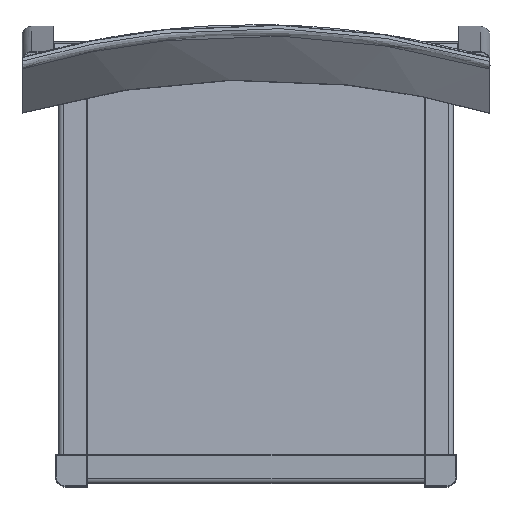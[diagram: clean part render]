
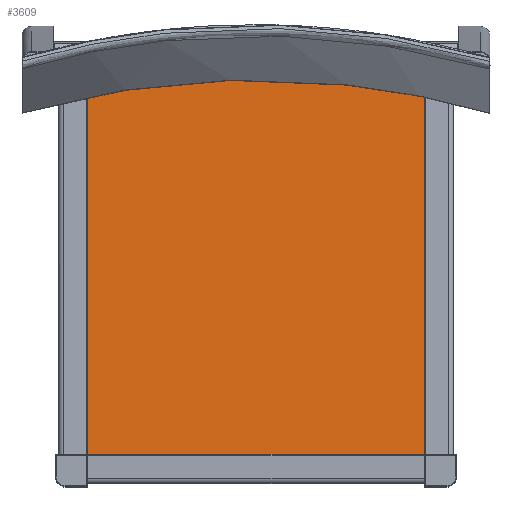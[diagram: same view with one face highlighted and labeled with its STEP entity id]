
A CAD part, top view. The second image highlights one B-rep face of the part: STEP entity #3609.
In plain terms, the highlighted planar face has unit normal (0, 0.035, 0.999).
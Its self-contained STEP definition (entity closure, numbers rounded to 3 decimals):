
#134 = VERTEX_POINT ( 'NONE', #3790 ) ;
#288 = CARTESIAN_POINT ( 'NONE',  ( -170.02, 184.876, 41.343 ) ) ;
#532 = ORIENTED_EDGE ( 'NONE', *, *, #6841, .F. ) ;
#590 = CARTESIAN_POINT ( 'NONE',  ( -170.02, -200.567, 54.803 ) ) ;
#770 = VERTEX_POINT ( 'NONE', #3491 ) ;
#1031 = EDGE_LOOP ( 'NONE', ( #3943, #6428, #532, #3083 ) ) ;
#1310 = CARTESIAN_POINT ( 'NONE',  ( -170.52, 185.375, 41.325 ) ) ;
#1406 = B_SPLINE_CURVE_WITH_KNOTS ( 'NONE', 1,
 ( #4540, #288 ),
 .UNSPECIFIED., .F., .F.,
 ( 2, 2 ),
 ( 0.5, 386.177 ),
 .UNSPECIFIED. ) ;
#1943 = VERTEX_POINT ( 'NONE', #590 ) ;
#2227 = CARTESIAN_POINT ( 'NONE',  ( 169.98, 184.876, 41.343 ) ) ;
#2349 = B_SPLINE_CURVE_WITH_KNOTS ( 'NONE', 1,
 ( #2933, #4104 ),
 .UNSPECIFIED., .F., .F.,
 ( 2, 2 ),
 ( 0.5, 386.177 ),
 .UNSPECIFIED. ) ;
#2933 = CARTESIAN_POINT ( 'NONE',  ( 169.98, 184.876, 41.343 ) ) ;
#2975 = EDGE_CURVE ( 'NONE', #134, #770, #5308, .T. ) ;
#3033 = CARTESIAN_POINT ( 'NONE',  ( 169.98, -200.567, 54.803 ) ) ;
#3062 = DIRECTION ( 'NONE',  ( 1., 0., 0. ) ) ;
#3083 = ORIENTED_EDGE ( 'NONE', *, *, #7366, .F. ) ;
#3491 = CARTESIAN_POINT ( 'NONE',  ( 169.98, 184.876, 41.343 ) ) ;
#3609 = ADVANCED_FACE ( 'NONE', ( #7361 ), #4236, .T. ) ;
#3790 = CARTESIAN_POINT ( 'NONE',  ( -170.02, 184.876, 41.343 ) ) ;
#3943 = ORIENTED_EDGE ( 'NONE', *, *, #4261, .F. ) ;
#4098 = CARTESIAN_POINT ( 'NONE',  ( -170.02, -200.567, 54.803 ) ) ;
#4104 = CARTESIAN_POINT ( 'NONE',  ( 169.98, -200.567, 54.803 ) ) ;
#4236 = PLANE ( 'NONE',  #6505 ) ;
#4261 = EDGE_CURVE ( 'NONE', #770, #7445, #2349, .T. ) ;
#4540 = CARTESIAN_POINT ( 'NONE',  ( -170.02, -200.567, 54.803 ) ) ;
#4561 = B_SPLINE_CURVE_WITH_KNOTS ( 'NONE', 1,
 ( #4684, #4098 ),
 .UNSPECIFIED., .F., .F.,
 ( 2, 2 ),
 ( 0.5, 340.5 ),
 .UNSPECIFIED. ) ;
#4684 = CARTESIAN_POINT ( 'NONE',  ( 169.98, -200.567, 54.803 ) ) ;
#5308 = B_SPLINE_CURVE_WITH_KNOTS ( 'NONE', 1,
 ( #7607, #2227 ),
 .UNSPECIFIED., .F., .F.,
 ( 2, 2 ),
 ( 0.5, 340.5 ),
 .UNSPECIFIED. ) ;
#6428 = ORIENTED_EDGE ( 'NONE', *, *, #2975, .F. ) ;
#6505 = AXIS2_PLACEMENT_3D ( 'NONE', #1310, #6778, #3062 ) ;
#6778 = DIRECTION ( 'NONE',  ( 0., 0.035, 0.999 ) ) ;
#6841 = EDGE_CURVE ( 'NONE', #1943, #134, #1406, .T. ) ;
#7361 = FACE_OUTER_BOUND ( 'NONE', #1031, .T. ) ;
#7366 = EDGE_CURVE ( 'NONE', #7445, #1943, #4561, .T. ) ;
#7445 = VERTEX_POINT ( 'NONE', #3033 ) ;
#7607 = CARTESIAN_POINT ( 'NONE',  ( -170.02, 184.876, 41.343 ) ) ;
